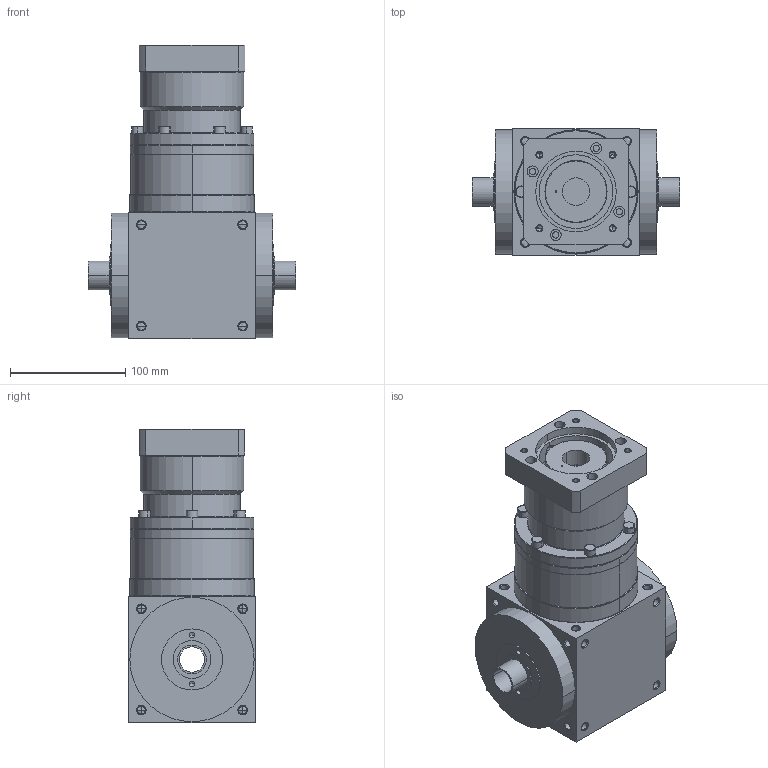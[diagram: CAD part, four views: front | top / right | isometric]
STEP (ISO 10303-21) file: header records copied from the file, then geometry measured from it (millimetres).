
FILE_DESCRIPTION((''),'2;1');
FILE_NAME('ATB110FC2-P0405300308_ASM','2023-05-15T',('Administrator'),(''),'PRO/ENGINEER BY PARAMETRIC TECHNOLOGY CORPORATION, 2015240','PRO/ENGINEER BY PARAMETRIC TECHNOLOGY CORPORATION, 2015240','');
FILE_SCHEMA(('CONFIG_CONTROL_DESIGN'));
Length unit declared in the file: millimetre
Products named in the file (7): P0226500001_D; P1801500001_D; ATC-HOUSING-5; P0903300001_D; ATB110FC2_ASM; P0405300308-0009; ATB110FC2-P0405300308_ASM
Assembly tree (6 placements, depth 3):
  ATB110FC2-P0405300308_ASM
    ATB110FC2_ASM
      P0226500001_D
      P1801500001_D
      ATC-HOUSING-5
      P0903300001_D
    P0405300308-0009
Bounding box: 180 x 110 x 255 mm (x, y, z)
Volume: 2123573.2 mm3; surface area: 250239.8 mm2
Topology: 5 solids, 34 shells, 491 faces, 1240 edges, 746 vertices
Faces by surface type: cylinder 259, cone 140, plane 72, torus 18, bspline 2
Entity records: 15554 total; most frequent: CARTESIAN_POINT 3770, DIRECTION 2594, ORIENTED_EDGE 2228, EDGE_CURVE 1172, AXIS2_PLACEMENT_3D 1084, VERTEX_POINT 746, EDGE_LOOP 596, CIRCLE 572
